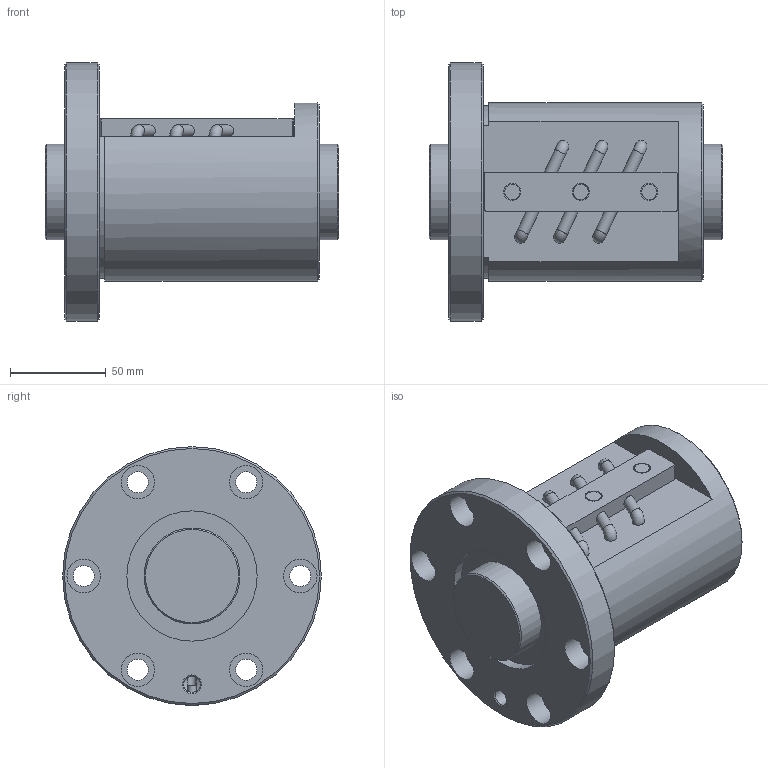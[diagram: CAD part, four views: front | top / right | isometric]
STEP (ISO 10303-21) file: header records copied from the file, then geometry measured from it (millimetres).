
FILE_DESCRIPTION(/* description */ ('STEP AP203'),/* implementation_level */ '2;1');
FILE_NAME(/* name */ 'BNF5010V-7.5RRG1+153LC0_000_rev',/* time_stamp */ '2024-08-06T09:05:09+02:00',/* author */ ('License CC BY-ND 4.0'),/* organization */ ('CADENAS'),/* preprocessor_version */ 'ST-DEVELOPER v19.3',/* originating_system */ 'PARTsolutions',/* authorisation */ ' ');
FILE_SCHEMA (('CONFIG_CONTROL_DESIGN'));
Length unit declared in the file: millimetre
Products named in the file (3): BNF5010V-7.5RRG1+153LC0_000_rev; BNF 5010-7.5RR000 Shaft; BNF 5010-7.5RR Nut
Assembly tree (2 placements, depth 2):
  BNF5010V-7.5RRG1+153LC0_000_rev
    BNF 5010-7.5RR000 Shaft
    BNF 5010-7.5RR Nut
Bounding box: 153 x 135 x 135 mm (x, y, z)
Volume: 967392 mm3; surface area: 125118.7 mm2
Topology: 2 solids, 2 shells, 85 faces, 198 edges, 131 vertices
Faces by surface type: cylinder 41, plane 30, cone 8, torus 6
Full cylindrical faces by diameter (mm): 4.5 x2, 6.198 x6, 8 x3, 8.566 x1, 9 x3, 11 x6, 17.5 x6, 50 x2, 68 x2, 93 x1, 135 x1
Entity records: 2227 total; most frequent: CARTESIAN_POINT 406, DIRECTION 386, ORIENTED_EDGE 262, AXIS2_PLACEMENT_3D 179, EDGE_LOOP 174, FACE_BOUND 174, EDGE_CURVE 131, VERTEX_POINT 111
